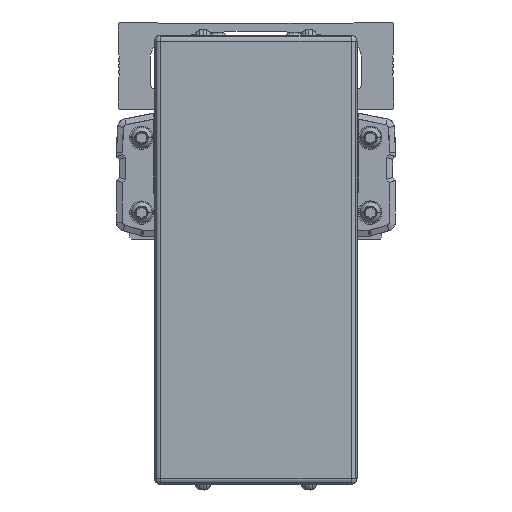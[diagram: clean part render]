
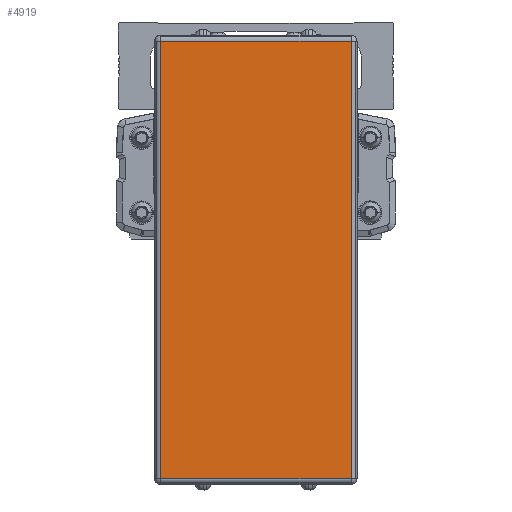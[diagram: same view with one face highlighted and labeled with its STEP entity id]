
A CAD part, front view. The second image highlights one B-rep face of the part: STEP entity #4919.
In plain terms, the highlighted planar face has unit normal (0, -1, 0).
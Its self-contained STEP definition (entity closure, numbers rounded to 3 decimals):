
#4919=ADVANCED_FACE('',(#10532),#10533,.T.);
#10532=FACE_OUTER_BOUND('',#17695,.T.);
#10533=PLANE('',#17696);
#17695=EDGE_LOOP('',(#32728,#32729,#32730,#32731));
#17696=AXIS2_PLACEMENT_3D('',#32732,#32733,#32734);
#32728=ORIENTED_EDGE('',*,*,#41019,.F.);
#32729=ORIENTED_EDGE('',*,*,#41512,.F.);
#32730=ORIENTED_EDGE('',*,*,#45131,.F.);
#32731=ORIENTED_EDGE('',*,*,#44232,.F.);
#32732=CARTESIAN_POINT('',(0.,-114.778,-50.1));
#32733=DIRECTION('',(0.0,-1.0,0.));
#32734=DIRECTION('',(1.0,0.0,0.0));
#41019=EDGE_CURVE('',#49624,#49626,#49627,.T.);
#41512=EDGE_CURVE('',#50430,#49624,#50432,.T.);
#44232=EDGE_CURVE('',#49626,#54494,#54495,.T.);
#45131=EDGE_CURVE('',#54494,#50430,#55675,.T.);
#49624=VERTEX_POINT('',#61774);
#49626=VERTEX_POINT('',#61776);
#49627=LINE('',#61777,#61778);
#50430=VERTEX_POINT('',#63006);
#50432=LINE('',#63008,#63009);
#54494=VERTEX_POINT('',#69129);
#54495=LINE('',#69130,#69131);
#55675=LINE('',#70995,#70996);
#61774=CARTESIAN_POINT('',(32.5,-114.778,24.5));
#61776=CARTESIAN_POINT('',(32.5,-114.778,-124.7));
#61777=CARTESIAN_POINT('',(32.5,-114.778,-50.1));
#61778=VECTOR('',#75347,10.0);
#63006=CARTESIAN_POINT('',(-32.5,-114.778,24.5));
#63008=CARTESIAN_POINT('',(0.,-114.778,24.5));
#63009=VECTOR('',#75911,10.0);
#69129=CARTESIAN_POINT('',(-32.5,-114.778,-124.7));
#69130=CARTESIAN_POINT('',(0.,-114.778,-124.7));
#69131=VECTOR('',#79145,10.0);
#70995=CARTESIAN_POINT('',(-32.5,-114.778,-50.1));
#70996=VECTOR('',#80160,10.0);
#75347=DIRECTION('',(0.0,0.,-1.0));
#75911=DIRECTION('',(1.0,0.0,0.0));
#79145=DIRECTION('',(-1.0,0.0,0.0));
#80160=DIRECTION('',(0.0,0.,1.0));
